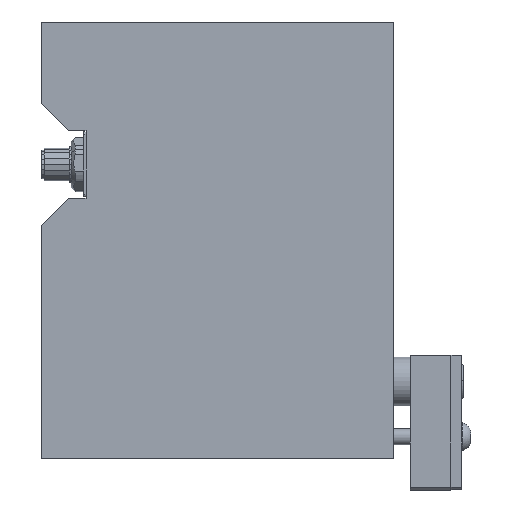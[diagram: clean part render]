
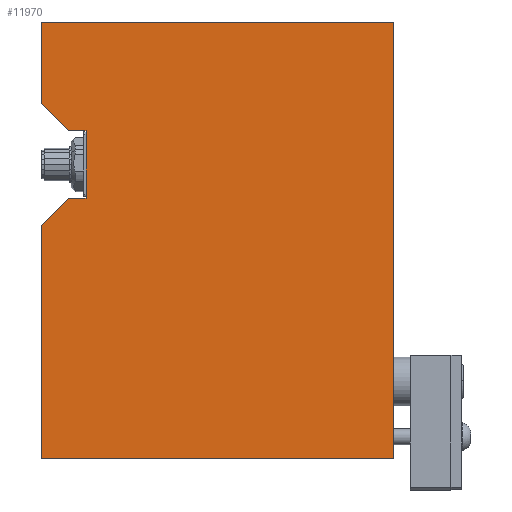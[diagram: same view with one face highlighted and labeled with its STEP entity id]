
A CAD part, front view. The second image highlights one B-rep face of the part: STEP entity #11970.
In plain terms, the highlighted planar face has unit normal (0, -1, 0).
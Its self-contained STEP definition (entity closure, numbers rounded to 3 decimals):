
#3 = LINE ( 'NONE', #15656, #3933 ) ;
#98 = EDGE_CURVE ( 'NONE', #6614, #11731, #19420, .T. ) ;
#440 = VECTOR ( 'NONE', #11066, 1000. ) ;
#738 = LINE ( 'NONE', #15758, #9091 ) ;
#747 = CARTESIAN_POINT ( 'NONE',  ( -290.5, 20.354, 2.5 ) ) ;
#1080 = DIRECTION ( 'NONE',  ( -1., 0., 0. ) ) ;
#1666 = CARTESIAN_POINT ( 'NONE',  ( -157.5, 20.354, -80.5 ) ) ;
#1816 = VERTEX_POINT ( 'NONE', #1666 ) ;
#2088 = CARTESIAN_POINT ( 'NONE',  ( -290.5, 20.354, 80.5 ) ) ;
#2194 = EDGE_CURVE ( 'NONE', #4113, #6614, #6539, .T. ) ;
#2797 = DIRECTION ( 'NONE',  ( 0., 0., -1. ) ) ;
#3782 = DIRECTION ( 'NONE',  ( -1., 0., 0. ) ) ;
#3902 = VERTEX_POINT ( 'NONE', #21007 ) ;
#3933 = VECTOR ( 'NONE', #19100, 1000. ) ;
#3983 = EDGE_CURVE ( 'NONE', #14759, #11156, #13782, .T. ) ;
#4113 = VERTEX_POINT ( 'NONE', #6518 ) ;
#4657 = EDGE_CURVE ( 'NONE', #3902, #11731, #20353, .T. ) ;
#4674 = ORIENTED_EDGE ( 'NONE', *, *, #4657, .F. ) ;
#4785 = CARTESIAN_POINT ( 'NONE',  ( -277.5, 20.354, 40.5 ) ) ;
#4877 = VECTOR ( 'NONE', #9461, 1000. ) ;
#5706 = DIRECTION ( 'NONE',  ( 0.707, 0., -0.707 ) ) ;
#6518 = CARTESIAN_POINT ( 'NONE',  ( -271., 20.354, 15.5 ) ) ;
#6539 = LINE ( 'NONE', #7703, #14921 ) ;
#6558 = AXIS2_PLACEMENT_3D ( 'NONE', #15491, #18874, #8824 ) ;
#6614 = VERTEX_POINT ( 'NONE', #10992 ) ;
#7195 = VECTOR ( 'NONE', #3782, 1000. ) ;
#7593 = EDGE_LOOP ( 'NONE', ( #4674, #21058, #11949, #14595, #18076, #17159, #20825, #21447, #12870, #20956 ) ) ;
#7703 = CARTESIAN_POINT ( 'NONE',  ( -277.5, 20.354, 15.5 ) ) ;
#8605 = VERTEX_POINT ( 'NONE', #10779 ) ;
#8738 = EDGE_CURVE ( 'NONE', #8605, #4113, #15531, .T. ) ;
#8748 = DIRECTION ( 'NONE',  ( 1., 0., 0. ) ) ;
#8824 = DIRECTION ( 'NONE',  ( 0., 0., -1. ) ) ;
#9091 = VECTOR ( 'NONE', #5706, 1000. ) ;
#9327 = LINE ( 'NONE', #14392, #440 ) ;
#9461 = DIRECTION ( 'NONE',  ( 0., 0., 1. ) ) ;
#9647 = CARTESIAN_POINT ( 'NONE',  ( -287.5, 20.354, 5.5 ) ) ;
#9790 = CARTESIAN_POINT ( 'NONE',  ( -287.5, 20.354, 9. ) ) ;
#10438 = FACE_OUTER_BOUND ( 'NONE', #7593, .T. ) ;
#10543 = CARTESIAN_POINT ( 'NONE',  ( -287.5, 20.354, 80.5 ) ) ;
#10779 = CARTESIAN_POINT ( 'NONE',  ( -271., 20.354, 40.5 ) ) ;
#10992 = CARTESIAN_POINT ( 'NONE',  ( -277.5, 20.354, 15.5 ) ) ;
#11066 = DIRECTION ( 'NONE',  ( -1., 0., 0. ) ) ;
#11156 = VERTEX_POINT ( 'NONE', #10543 ) ;
#11232 = EDGE_CURVE ( 'NONE', #1816, #17608, #3, .T. ) ;
#11318 = CARTESIAN_POINT ( 'NONE',  ( -157.5, 20.354, 80.5 ) ) ;
#11731 = VERTEX_POINT ( 'NONE', #9647 ) ;
#11937 = VECTOR ( 'NONE', #18153, 1000. ) ;
#11949 = ORIENTED_EDGE ( 'NONE', *, *, #11232, .T. ) ;
#11963 = EDGE_CURVE ( 'NONE', #13269, #8605, #15403, .T. ) ;
#11970 = ADVANCED_FACE ( 'NONE', ( #10438 ), #17118, .T. ) ;
#12870 = ORIENTED_EDGE ( 'NONE', *, *, #2194, .T. ) ;
#13269 = VERTEX_POINT ( 'NONE', #4785 ) ;
#13782 = LINE ( 'NONE', #17827, #4877 ) ;
#14392 = CARTESIAN_POINT ( 'NONE',  ( -118.7, 20.354, -80.5 ) ) ;
#14485 = CARTESIAN_POINT ( 'NONE',  ( -271., 20.354, 15.5 ) ) ;
#14595 = ORIENTED_EDGE ( 'NONE', *, *, #19600, .T. ) ;
#14708 = CARTESIAN_POINT ( 'NONE',  ( -287.5, 20.354, 50.5 ) ) ;
#14759 = VERTEX_POINT ( 'NONE', #14708 ) ;
#14875 = VECTOR ( 'NONE', #8748, 1000. ) ;
#14921 = VECTOR ( 'NONE', #1080, 1000. ) ;
#15403 = LINE ( 'NONE', #18799, #14875 ) ;
#15491 = CARTESIAN_POINT ( 'NONE',  ( -204.6, 20.354, 9. ) ) ;
#15531 = LINE ( 'NONE', #14485, #20018 ) ;
#15656 = CARTESIAN_POINT ( 'NONE',  ( -157.5, 20.354, -80.5 ) ) ;
#15758 = CARTESIAN_POINT ( 'NONE',  ( -277.5, 20.354, 40.5 ) ) ;
#16301 = EDGE_CURVE ( 'NONE', #14759, #13269, #738, .T. ) ;
#16878 = EDGE_CURVE ( 'NONE', #1816, #3902, #9327, .T. ) ;
#17118 = PLANE ( 'NONE',  #6558 ) ;
#17159 = ORIENTED_EDGE ( 'NONE', *, *, #16301, .T. ) ;
#17608 = VERTEX_POINT ( 'NONE', #11318 ) ;
#17827 = CARTESIAN_POINT ( 'NONE',  ( -287.5, 20.354, 9. ) ) ;
#18076 = ORIENTED_EDGE ( 'NONE', *, *, #3983, .F. ) ;
#18153 = DIRECTION ( 'NONE',  ( 0., 0., 1. ) ) ;
#18799 = CARTESIAN_POINT ( 'NONE',  ( -271., 20.354, 40.5 ) ) ;
#18874 = DIRECTION ( 'NONE',  ( 0., -1., 0. ) ) ;
#18886 = VECTOR ( 'NONE', #19189, 1000. ) ;
#19100 = DIRECTION ( 'NONE',  ( 0., 0., 1. ) ) ;
#19189 = DIRECTION ( 'NONE',  ( -0.707, 0., -0.707 ) ) ;
#19420 = LINE ( 'NONE', #747, #18886 ) ;
#19600 = EDGE_CURVE ( 'NONE', #17608, #11156, #20613, .T. ) ;
#20018 = VECTOR ( 'NONE', #2797, 1000. ) ;
#20353 = LINE ( 'NONE', #9790, #11937 ) ;
#20613 = LINE ( 'NONE', #2088, #7195 ) ;
#20825 = ORIENTED_EDGE ( 'NONE', *, *, #11963, .T. ) ;
#20956 = ORIENTED_EDGE ( 'NONE', *, *, #98, .T. ) ;
#21007 = CARTESIAN_POINT ( 'NONE',  ( -287.5, 20.354, -80.5 ) ) ;
#21058 = ORIENTED_EDGE ( 'NONE', *, *, #16878, .F. ) ;
#21447 = ORIENTED_EDGE ( 'NONE', *, *, #8738, .T. ) ;
